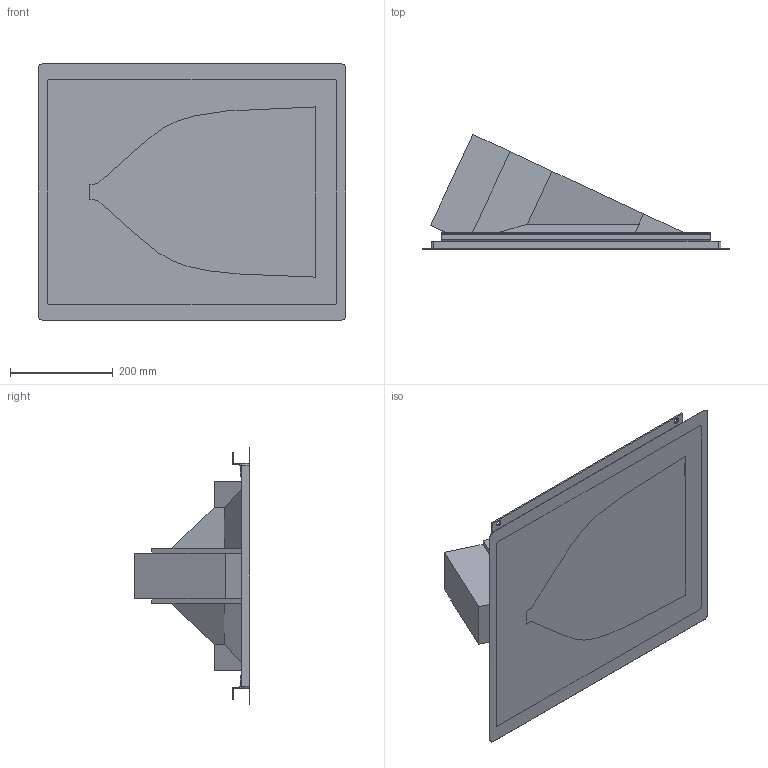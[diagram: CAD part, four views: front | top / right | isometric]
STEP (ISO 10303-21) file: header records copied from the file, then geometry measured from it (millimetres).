
FILE_DESCRIPTION(/* description */ ('STEP AP214'),/* implementation_level */ '2;1');
FILE_NAME(/* name */ 'The Director PRO ACTIVE EXT WITH GRILLE.step',/* time_stamp */ '2025-04-02T12:38:42+02:00',/* author */ (''),/* organization */ (''),/* preprocessor_version */ 'ST-DEVELOPER v20.1',/* originating_system */ 'Autodesk Translation Framework v14.4.0.0',/* authorisation */ '');
FILE_SCHEMA (('AUTOMOTIVE_DESIGN { 1 0 10303 214 3 1 1 }'));
Length unit declared in the file: millimetre
Products named in the file (3): Director HF Unit; Director HF Unit_1; Director Grille
Assembly tree (2 placements, depth 2):
  Director HF Unit
    Director HF Unit_1
    Director Grille
Bounding box: 600 x 224.26 x 500 mm (x, y, z)
Volume: 7366207.8 mm3; surface area: 1405379.8 mm2
Topology: 2 solids, 2 shells, 89 faces, 237 edges, 156 vertices
Faces by surface type: plane 55, cylinder 23, bspline 7, cone 4
Full cylindrical faces by diameter (mm): 9 x4
Entity records: 3614 total; most frequent: CARTESIAN_POINT 1305, ORIENTED_EDGE 474, DIRECTION 441, EDGE_CURVE 237, LINE 167, VECTOR 167, VERTEX_POINT 156, AXIS2_PLACEMENT_3D 137
